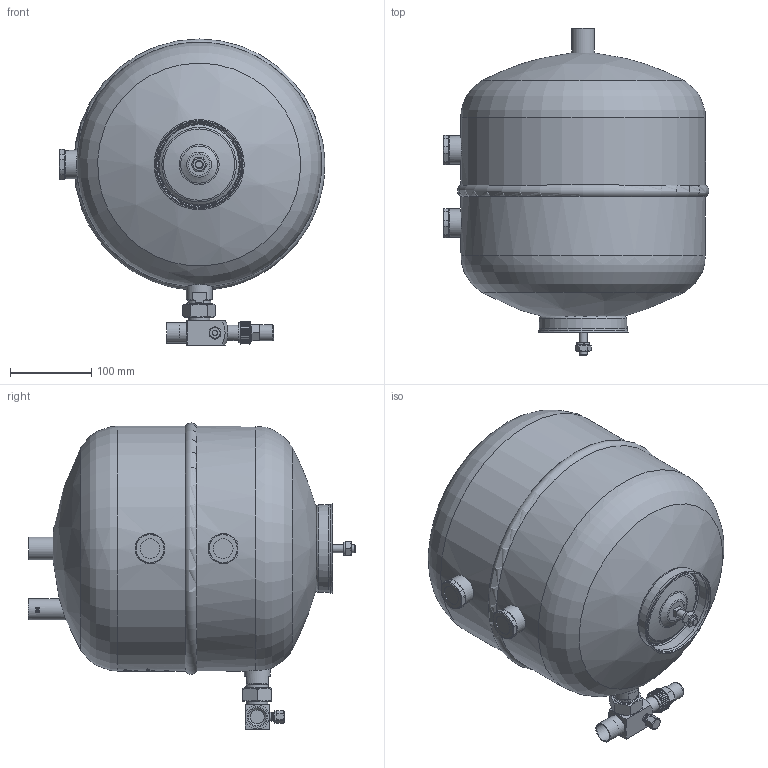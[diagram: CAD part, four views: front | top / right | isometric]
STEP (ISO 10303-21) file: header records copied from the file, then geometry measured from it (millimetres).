
FILE_DESCRIPTION(/* description */ (''),/* implementation_level */ '2;1');
FILE_NAME(/* name */ 'P:\SGS\SGS-18-CD\SGS-18-CD.stp',/* time_stamp */ '2017-10-05T09:10:13+02:00',/* author */ ('neufeld'),/* organization */ (''),/* preprocessor_version */ 'ST-DEVELOPER v16.1',/* originating_system */ 'Autodesk Inventor 2016',/* authorisation */ '');
FILE_SCHEMA (('AUTOMOTIVE_DESIGN { 1 0 10303 214 3 1 1 }'));
Length unit declared in the file: millimetre
Products named in the file (3): SGS-18-CD_1; SGS-18-CD_2; SGS-18-CD
Assembly tree (2 placements, depth 2):
  SGS-18-CD
    SGS-18-CD_1
    SGS-18-CD_2
Bounding box: 327.5 x 403.42 x 377.45 mm (x, y, z)
Volume: 20083387.5 mm3; surface area: 432223.5 mm2
Topology: 3 solids, 5 shells, 1599 faces, 4283 edges, 2832 vertices
Faces by surface type: bspline 636, plane 607, cylinder 259, cone 78, torus 16, sphere 3
Full cylindrical faces by diameter (mm): 4 x1, 6.5 x1, 9 x2, 9.4 x1, 10 x2, 10.1 x1, 10.72 x1, 11 x1, 14 x1, 17 x2, 18.631 x1, 19 x3, 20 x1, 20.131 x1, 22.1 x1, 22.2 x1, 22.22 x1, 22.3 x1, 22.4 x1, 23 x1, 24.2 x2, 24.5 x2, 25 x1, 25.4 x1, 26 x2, 27 x1, 28 x1, 28.7 x2, 29 x1, 29.5 x1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
Entity records: 62733 total; most frequent: CARTESIAN_POINT 27519, ORIENTED_EDGE 8360, DIRECTION 5374, EDGE_CURVE 4167, VERTEX_POINT 2808, LINE 1874, VECTOR 1874, EDGE_LOOP 1831
